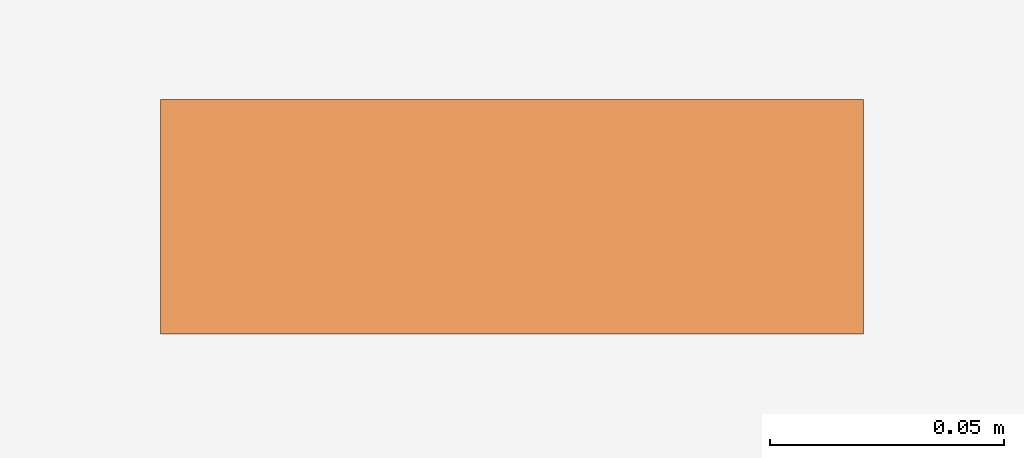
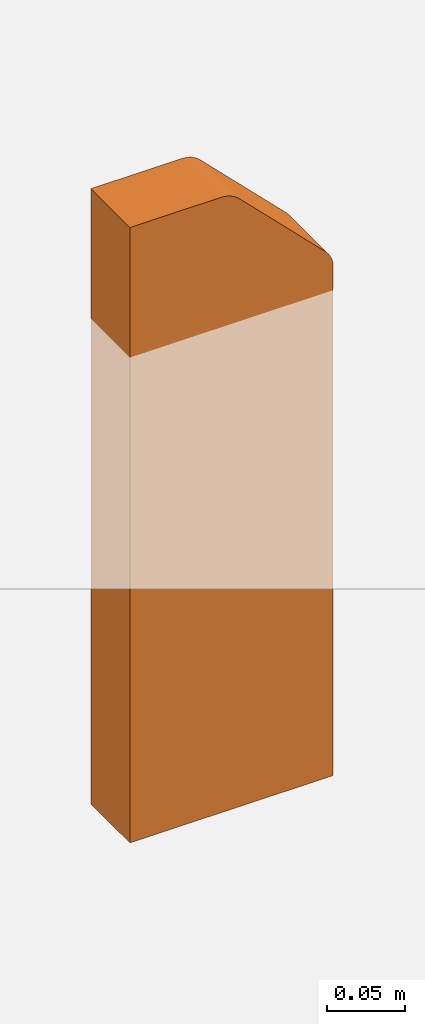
# One storey, part 2 of 2: 1 proxy.
"""IFC2X3 building model written with IfcOpenShell, lengths in millimetres."""

from ifc_helpers import new_model, entity, si_unit, converted_unit, direction, frame, frame_2d, origin, place, context, subcontext, project, spatial, polyline, circle_curve, parameter, trimmed, segment, composite_curve, outline, extrude, source, transform, mapped, material, element, save


model = new_model("IFC2X3")

# Units and contexts
model_context = context("Model", 3, precision=1e-06, world=origin(), true_north=direction((2.0, 6.12303176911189e-17, 1.0)))
context_of_model = context(None, 3, precision=1e-06, world=origin(), true_north=direction((2.0, 6.12303176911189e-17, 1.0)))
body_context = subcontext(model_context, "Body", "Model", "MODEL_VIEW")
ifc_project = project(units=[si_unit("LENGTHUNIT", "METRE", prefix="MILLI"), si_unit("AREAUNIT", "SQUARE_METRE", prefix="MILLI"), si_unit("VOLUMEUNIT", "CUBIC_METRE", prefix="MILLI"), converted_unit("PLANEANGLEUNIT", "DEGREE", entity("IfcRatioMeasure", 0.0174532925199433), si_unit("PLANEANGLEUNIT", "RADIAN"), dimensions=[0, 0, 0, 0, 0, 0, 0]), si_unit("TIMEUNIT", "SECOND")], contexts=[model_context, context_of_model])

# Site, building, storey
site_placement = place(None, origin())
site = spatial("IfcSite", under=ifc_project, at=site_placement, Name="Default", CompositionType="ELEMENT")
building_placement = place(site_placement, origin())
building = spatial("IfcBuilding", under=site, at=building_placement, CompositionType="ELEMENT")
storey_placement = place(building_placement, origin())
storey = spatial("IfcBuildingStorey", under=building, at=storey_placement, Name="Level 1", CompositionType="ELEMENT", Elevation=0.0)

# Proxy
ifc_material = material(Name="ACO Polymer Concrete.")
shared_shape = source(origin(), body_context, "Body", "SweptSolid", [
    extrude(outline(composite_curve([segment(polyline([(-65.4100082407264, -320.30427747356), (84.589991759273, -320.30427747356)]), True, "CONTINUOUS"), segment(polyline([(84.589991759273, -320.30427747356), (84.589991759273, 159.695722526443)]), True, "CONTINUOUS"), segment(polyline([(84.589991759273, 159.695722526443), (17.4600494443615, 159.695722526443)]), True, "CONTINUOUS"), segment(trimmed(circle_curve(frame_2d((17.4600494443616, 140.695722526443), x_axis=(-1.0, 0.0)), 19.0), [parameter(270.0)], [parameter(315.000000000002)], True, "PARAMETER"), True, "CONTINUOUS"), segment(polyline([(4.02502060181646, 154.130751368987), (-59.8450370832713, 90.2606936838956)]), True, "CONTINUOUS"), segment(trimmed(circle_curve(frame_2d((-46.4100082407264, 76.8256648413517), x_axis=(-1.0, 0.0)), 19.0), [parameter(315.000000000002)], [parameter(3.56222124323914e-13)], True, "PARAMETER"), True, "CONTINUOUS"), segment(polyline([(-65.4100082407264, 76.8256648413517), (-65.4100082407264, -320.30427747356)]), True, "CONTINUOUS")], self_intersect=False)), frame((9.58999175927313, 0.0, -59.695722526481), z_axis=(0.0, 1.0, 0.0), x_axis=(-1.0, 0.0, 0.0)), (0.0, 0.0, 1.0), 50.0),
])
proxy_placement = place(storey_placement, frame((-13460.350578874, -1522.05906174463, 0.0)))
element("IfcBuildingElementProxy", 1, at=proxy_placement, inside=storey, material=ifc_material, Name="Civil-Drainage-Channel-ACO-KerbDrain-SP280:4961 - Closing end cap:4961 - Closing end cap", ObjectType="4961 - Closing end cap", CompositionType="ELEMENT", context=body_context, shape_type="MappedRepresentation", body=[
    mapped(shared_shape, transform((0.0, 0.0, 0.0), scale=1.0)),
])

save(model, "model.ifc")
